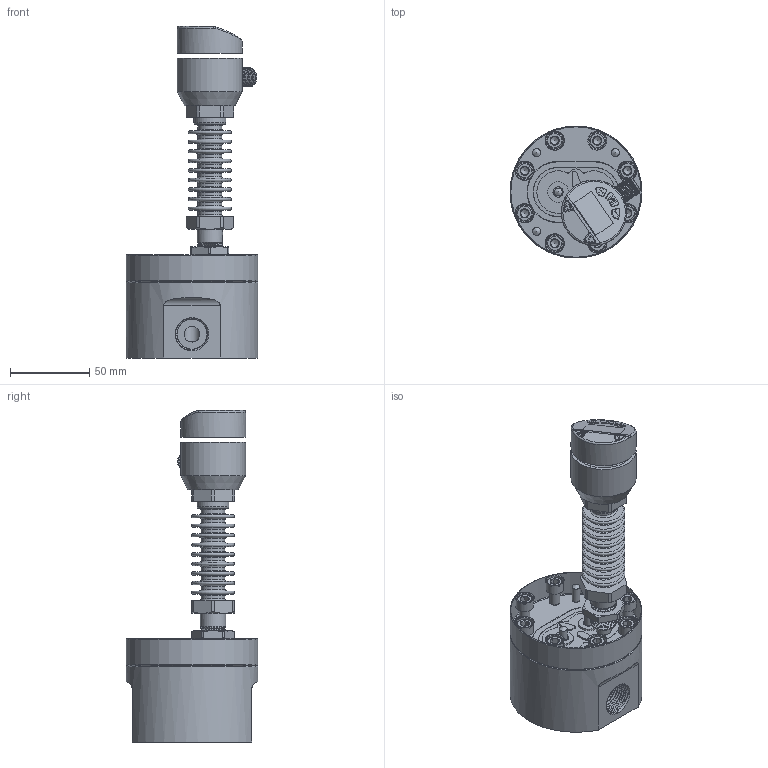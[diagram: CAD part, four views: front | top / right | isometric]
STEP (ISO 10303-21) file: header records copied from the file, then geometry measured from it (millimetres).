
FILE_DESCRIPTION( (''), '2;1');
FILE_NAME( 'QZKA_M10_high-temp.step', '2024-06-05T08:51:55+08:00', (''), (''), '', '', '');
FILE_SCHEMA (('AUTOMOTIVE_DESIGN { 1 0 10303 214 3 1 1 1 }'));
Products named in the file (1): QZKA M10_high-temp
Bounding box: 83 x 83 x 208.9 mm (x, y, z)
Volume: 329409.2 mm3; surface area: 96923 mm2
Topology: 13 solids, 15 shells, 929 faces, 2131 edges, 1310 vertices
Faces by surface type: plane 361, cylinder 241, cone 169, torus 84, bspline 46, extrusion 22, sphere 6
Full cylindrical faces by diameter (mm): 1 x5, 2.7 x4, 5 x22, 5.795 x8, 6.5 x12, 8.4 x1, 9 x1, 9.7 x1, 9.8 x1, 10 x12, 10.1 x1, 11 x8, 11.6 x1, 12 x2, 13 x4, 15 x10, 15.9 x1, 19.5 x2, 20 x1, 23 x3, 26 x4, 26.1 x1, 37 x1, 41 x2, 83 x2
Entity records: 45678 total; most frequent: CARTESIAN_POINT 24980, DIRECTION 3946, ORIENTED_EDGE 3554, EDGE_CURVE 1777, AXIS2_PLACEMENT_3D 1633, EDGE_LOOP 1269, VERTEX_POINT 1232, ADVANCED_FACE 924
